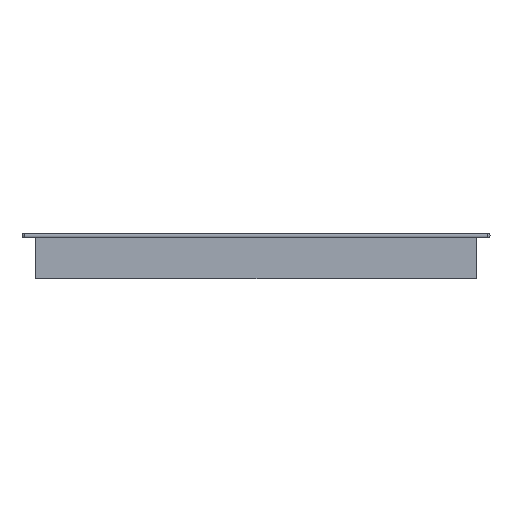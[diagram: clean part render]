
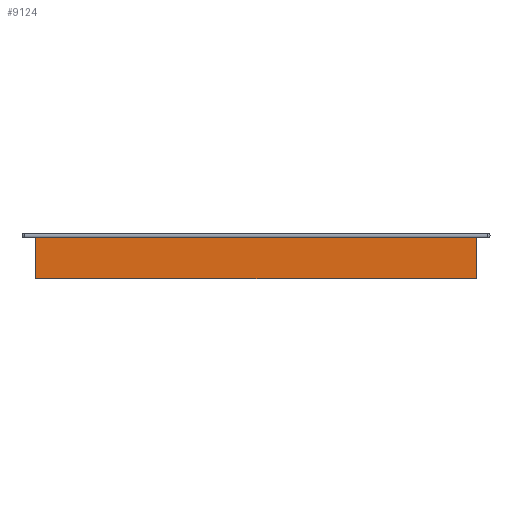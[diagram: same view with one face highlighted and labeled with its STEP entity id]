
A CAD part, left-side view. The second image highlights one B-rep face of the part: STEP entity #9124.
In plain terms, the highlighted planar face has unit normal (-1, 0, 0).
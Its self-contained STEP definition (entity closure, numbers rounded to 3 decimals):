
#9085=CARTESIAN_POINT('Axis2P3D Location',(-275.,240.,0.)) ;
#9090=CARTESIAN_POINT('Line Origine',(-275.,0.,-49.1)) ;
#9094=CARTESIAN_POINT('Vertex',(-275.,240.,-49.1)) ;
#9096=CARTESIAN_POINT('Vertex',(-275.,-240.,-49.1)) ;
#9099=CARTESIAN_POINT('Line Origine',(-275.,-240.,-26.55)) ;
#9103=CARTESIAN_POINT('Vertex',(-275.,-240.,-4.)) ;
#9106=CARTESIAN_POINT('Line Origine',(-275.,0.,-4.)) ;
#9110=CARTESIAN_POINT('Vertex',(-275.,240.,-4.)) ;
#9113=CARTESIAN_POINT('Line Origine',(-275.,240.,-26.55)) ;
#9086=DIRECTION('Axis2P3D Direction',(1.,0.,0.)) ;
#9087=DIRECTION('Axis2P3D XDirection',(0.,-1.,0.)) ;
#9091=DIRECTION('Vector Direction',(0.,-1.,0.)) ;
#9100=DIRECTION('Vector Direction',(0.,0.,-1.)) ;
#9107=DIRECTION('Vector Direction',(0.,-1.,0.)) ;
#9114=DIRECTION('Vector Direction',(0.,0.,-1.)) ;
#9088=AXIS2_PLACEMENT_3D('Plane Axis2P3D',#9085,#9086,#9087) ;
#9119=ORIENTED_EDGE('',*,*,#9098,.T.) ;
#9120=ORIENTED_EDGE('',*,*,#9105,.F.) ;
#9121=ORIENTED_EDGE('',*,*,#9112,.F.) ;
#9122=ORIENTED_EDGE('',*,*,#9117,.T.) ;
#9092=VECTOR('Line Direction',#9091,1.) ;
#9101=VECTOR('Line Direction',#9100,1.) ;
#9108=VECTOR('Line Direction',#9107,1.) ;
#9115=VECTOR('Line Direction',#9114,1.) ;
#9124=ADVANCED_FACE('PartBody',(#9123),#9089,.F.) ;
#9098=EDGE_CURVE('',#9095,#9097,#9093,.T.) ;
#9105=EDGE_CURVE('',#9104,#9097,#9102,.T.) ;
#9112=EDGE_CURVE('',#9111,#9104,#9109,.T.) ;
#9117=EDGE_CURVE('',#9111,#9095,#9116,.T.) ;
#9118=EDGE_LOOP('',(#9119,#9120,#9121,#9122)) ;
#9123=FACE_OUTER_BOUND('',#9118,.T.) ;
#9093=LINE('Line',#9090,#9092) ;
#9102=LINE('Line',#9099,#9101) ;
#9109=LINE('Line',#9106,#9108) ;
#9116=LINE('Line',#9113,#9115) ;
#9089=PLANE('',#9088) ;
#9095=VERTEX_POINT('',#9094) ;
#9097=VERTEX_POINT('',#9096) ;
#9104=VERTEX_POINT('',#9103) ;
#9111=VERTEX_POINT('',#9110) ;
